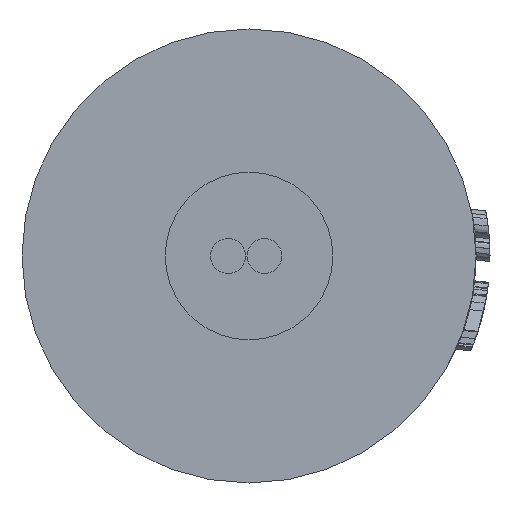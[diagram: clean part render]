
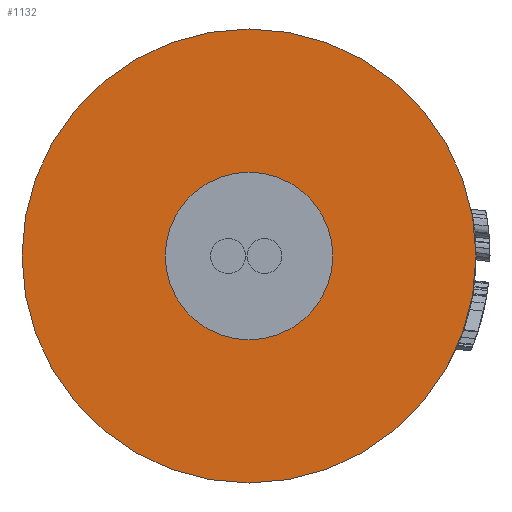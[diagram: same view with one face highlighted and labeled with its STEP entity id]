
A CAD part, front view. The second image highlights one B-rep face of the part: STEP entity #1132.
In plain terms, the highlighted planar face has unit normal (0, -1, 0).
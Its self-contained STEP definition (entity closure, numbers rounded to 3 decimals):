
#98=FACE_BOUND('',#3515,.T.);
#99=FACE_BOUND('',#3516,.T.);
#212=CIRCLE('',#13208,1.2);
#213=CIRCLE('',#13210,3.25);
#486=PLANE('',#13211);
#1132=ADVANCED_FACE('',(#98,#99),#486,.F.);
#3515=EDGE_LOOP('',(#5807));
#3516=EDGE_LOOP('',(#5808));
#5807=ORIENTED_EDGE('',*,*,#10416,.F.);
#5808=ORIENTED_EDGE('',*,*,#10415,.T.);
#8617=VERTEX_POINT('',#26453);
#8618=VERTEX_POINT('',#26456);
#10415=EDGE_CURVE('',#8617,#8617,#212,.T.);
#10416=EDGE_CURVE('',#8618,#8618,#213,.T.);
#13208=AXIS2_PLACEMENT_3D('',#26452,#14310,#14311);
#13210=AXIS2_PLACEMENT_3D('',#26455,#14314,#14315);
#13211=AXIS2_PLACEMENT_3D('',#26457,#14316,#14317);
#14310=DIRECTION('',(0.,1.,0.));
#14311=DIRECTION('',(1.,0.,0.));
#14314=DIRECTION('',(0.,1.,0.));
#14315=DIRECTION('',(1.,0.,0.));
#14316=DIRECTION('',(0.,1.,0.));
#14317=DIRECTION('',(-1.,0.,0.));
#26452=CARTESIAN_POINT('',(0.,2.,0.));
#26453=CARTESIAN_POINT('',(1.2,2.,0.));
#26455=CARTESIAN_POINT('',(0.,2.,0.));
#26456=CARTESIAN_POINT('',(3.25,2.,0.));
#26457=CARTESIAN_POINT('',(0.,2.,0.));
